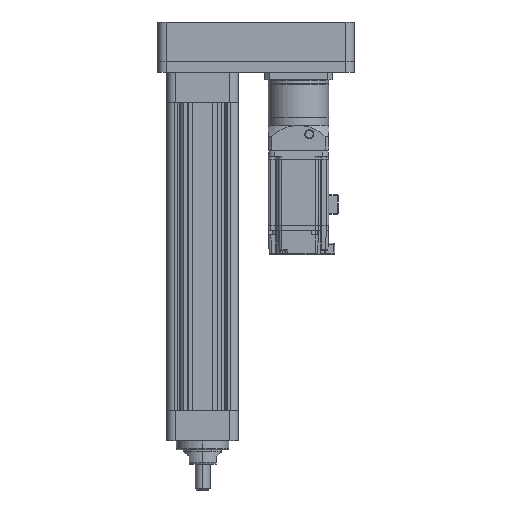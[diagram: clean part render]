
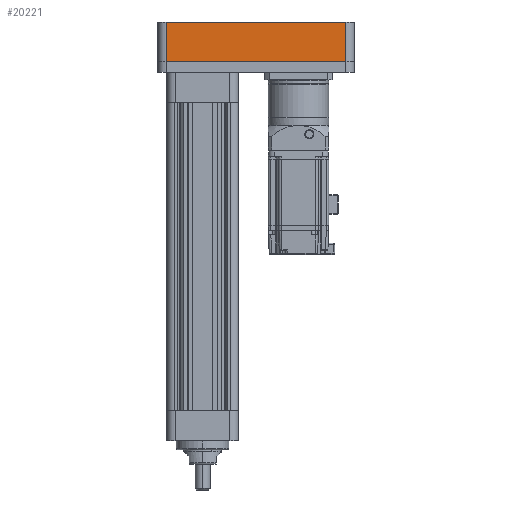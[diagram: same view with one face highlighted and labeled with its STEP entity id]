
A CAD part, front view. The second image highlights one B-rep face of the part: STEP entity #20221.
In plain terms, the highlighted planar face has unit normal (0, -1, 0).
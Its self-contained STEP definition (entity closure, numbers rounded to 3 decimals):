
#2175 = CARTESIAN_POINT ( 'NONE',  ( -152.884, -49.623, 26. ) ) ;
#2176 = CARTESIAN_POINT ( 'NONE',  ( 86.116, -49.623, 26. ) ) ;
#2186 = CARTESIAN_POINT ( 'NONE',  ( -152.884, -49.623, -26. ) ) ;
#2187 = CARTESIAN_POINT ( 'NONE',  ( 86.116, -49.623, -26. ) ) ;
#11069 = EDGE_CURVE ( 'NONE', #24653, #24654, #37619, .T. ) ;
#11092 = EDGE_CURVE ( 'NONE', #24664, #24653, #37688, .T. ) ;
#11094 = EDGE_CURVE ( 'NONE', #24654, #24665, #37694, .T. ) ;
#11095 = EDGE_CURVE ( 'NONE', #24664, #24665, #37697, .T. ) ;
#12706 = ORIENTED_EDGE ( 'NONE', *, *, #11092, .F. ) ;
#12708 = ORIENTED_EDGE ( 'NONE', *, *, #11094, .F. ) ;
#12709 = ORIENTED_EDGE ( 'NONE', *, *, #11095, .T. ) ;
#12710 = ORIENTED_EDGE ( 'NONE', *, *, #11069, .F. ) ;
#13212 = EDGE_LOOP ( 'NONE', ( #12708, #12710, #12706, #12709 ) ) ;
#20221 = ADVANCED_FACE ( 'NONE', ( #45097 ), #44649, .F. ) ;
#24653 = VERTEX_POINT ( 'NONE', #2175 ) ;
#24654 = VERTEX_POINT ( 'NONE', #2176 ) ;
#24664 = VERTEX_POINT ( 'NONE', #2186 ) ;
#24665 = VERTEX_POINT ( 'NONE', #2187 ) ;
#35965 = VECTOR ( 'NONE', #37621, 1000. ) ;
#35988 = VECTOR ( 'NONE', #37690, 1000. ) ;
#35989 = VECTOR ( 'NONE', #37696, 1000. ) ;
#35991 = VECTOR ( 'NONE', #37699, 1000. ) ;
#37619 = LINE ( 'NONE', #37620, #35965 ) ;
#37620 = CARTESIAN_POINT ( 'NONE',  ( -33.384, -49.623, 26. ) ) ;
#37621 = DIRECTION ( 'NONE',  ( 1., 0., 0. ) ) ;
#37688 = LINE ( 'NONE', #37689, #35988 ) ;
#37689 = CARTESIAN_POINT ( 'NONE',  ( -152.884, -49.623, 26. ) ) ;
#37690 = DIRECTION ( 'NONE',  ( 0., 0., 1. ) ) ;
#37694 = LINE ( 'NONE', #37695, #35989 ) ;
#37695 = CARTESIAN_POINT ( 'NONE',  ( 86.116, -49.623, 26. ) ) ;
#37696 = DIRECTION ( 'NONE',  ( 0., 0., -1. ) ) ;
#37697 = LINE ( 'NONE', #37698, #35991 ) ;
#37698 = CARTESIAN_POINT ( 'NONE',  ( -33.384, -49.623, -26. ) ) ;
#37699 = DIRECTION ( 'NONE',  ( 1., 0., 0. ) ) ;
#44649 = PLANE ( 'NONE',  #45103 ) ;
#44650 = CARTESIAN_POINT ( 'NONE',  ( -33.384, -49.623, 26. ) ) ;
#44651 = DIRECTION ( 'NONE',  ( 0., 1., 0. ) ) ;
#44652 = DIRECTION ( 'NONE',  ( 0., 0., 1. ) ) ;
#45097 = FACE_OUTER_BOUND ( 'NONE', #13212, .T. ) ;
#45103 = AXIS2_PLACEMENT_3D ( 'NONE', #44650, #44651, #44652 ) ;
